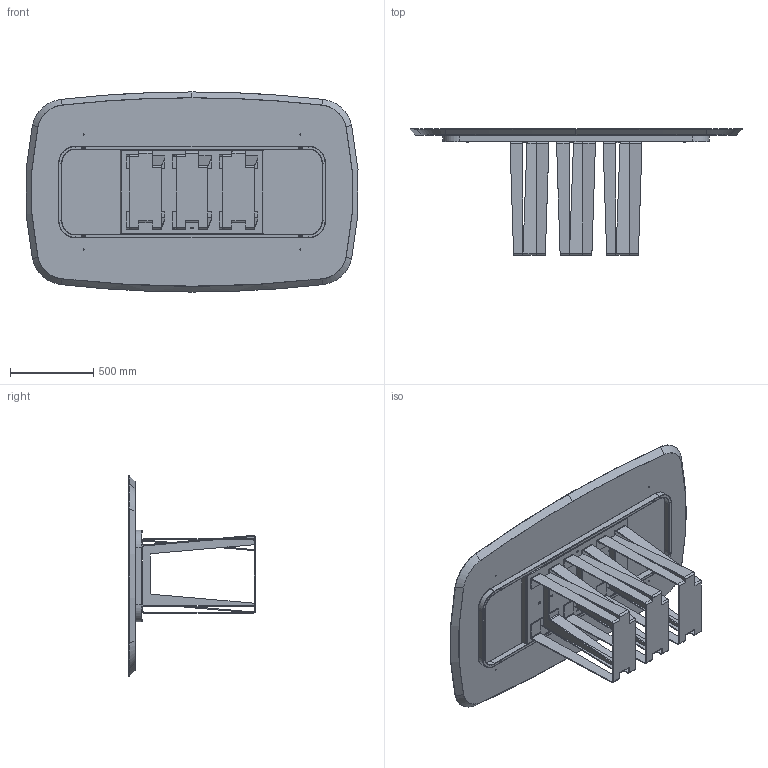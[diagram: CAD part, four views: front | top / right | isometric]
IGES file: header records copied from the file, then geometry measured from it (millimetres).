
Start section: SolidWorks IGES file using analytic representation for surfaces
Global section: file name: Y:\eforma\TECNICO\SOLIDWORKS\E-FORMA\1-TAVOLI\NARCISO\02 parts\NA41W.IGS; native system: SolidWorks 2022; preprocessor: SolidWorks 2022; author: eforma.tech; date: 240807.163935; units: millimetre
Bounding box: 1990.53 x 758 x 1200 mm (x, y, z)
Volume: 93059525.5 mm3; surface area: 9487114.6 mm2
Topology: 26 solids, 26 shells, 1150 faces, 2815 edges, 1693 vertices
Faces by surface type: plane 577, revolution 537, bspline 36
